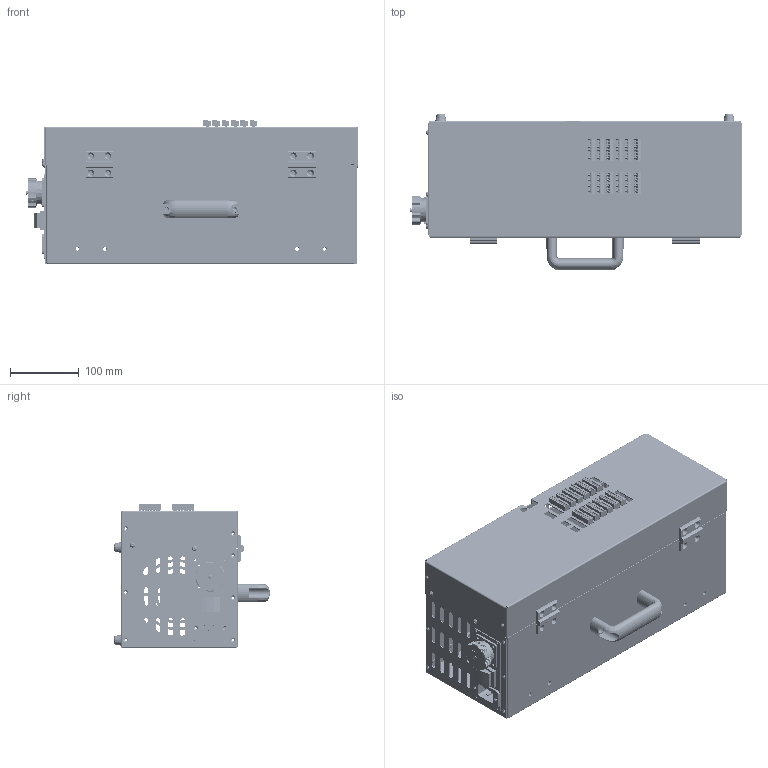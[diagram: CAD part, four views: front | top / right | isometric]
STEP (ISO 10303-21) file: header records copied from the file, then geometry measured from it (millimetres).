
FILE_DESCRIPTION (( 'STEP AP214' ), '1' );
FILE_NAME ('俋倛杅耀_ERB3C2K0N-D9_1.0_20250902.STEP', '2025-09-02T03:19:03', ( '' ), ( '' ), 'SwSTEP 2.0', 'SolidWorks 2020', '' );
FILE_SCHEMA (( 'AUTOMOTIVE_DESIGN' ));
Length unit declared in the file: millimetre
Products named in the file (18): 俋諉脣諳耀倰Safe Io-C20; CL218-3傲跳蝓蟈; 俋倛杅耀_ERB3C2K0N-D9_1.0_20250902; CL218-3傲跳-种; XAG61-L100; GB_T70.1-2008 M6x16; OEM眊极-C-藷-D9; OEM眊极-C-眊极; CL218-3傲跳; NA60401726_OEM眊极-D9-CS620; NA20600043_船型开关 KCD4 四脚两档带灯 30A; 囀鞠褒す埴芛蹟隊 GB _T 70.2 - 2015   M4X8; NA20200208_220V萇埭脣釱(CS620&625); NA20200197_瑤脣釱-CS620蚳蚚_WY32-Z; GBT70．1-2000内六角圆柱头螺钉M3×8; NHY11-16; NA60200442_ERB1C4K0N蟀諉ん假蚾鍼踢
Assembly tree (48 placements, depth 4):
  俋倛杅耀_ERB3C2K0N-D9_1.0_20250902
    NA60401726_OEM眊极-D9-CS620
      OEM眊极-C-眊极
      OEM眊极-C-藷-D9
      XAG61-L100
      NHY11-16  x4
      GBT70．1-2000内六角圆柱头螺钉M3×8
      GB_T70.1-2008 M6x16
      囀鞠褒す埴芛蹟隊 GB _T 70.2 - 2015   M4X8  x2
      CL218-3傲跳蝓蟈
        CL218-3傲跳  x2
        CL218-3傲跳-种
      CL218-3傲跳蝓蟈
        CL218-3傲跳  x2
        CL218-3傲跳-种
    NA20200208_220V萇埭脣釱(CS620&625)
    NA60200442_ERB1C4K0N蟀諉ん假蚾鍼踢
    NA20200197_瑤脣釱-CS620蚳蚚_WY32-Z
    NA20600043_船型开关 KCD4 四脚两档带灯 30A
    俋諉脣諳耀倰Safe Io-C20  x24
Bounding box: 483.67 x 226.94 x 209.95 mm (x, y, z)
Volume: 773345.4 mm3; surface area: 909616.6 mm2
Topology: 45 solids, 45 shells, 9614 faces, 25841 edges, 16956 vertices
Faces by surface type: plane 5296, cylinder 3268, bspline 581, cone 463, torus 6
Entity records: 97328 total; most frequent: CARTESIAN_POINT 24682, ORIENTED_EDGE 14264, DIRECTION 13551, EDGE_CURVE 7132, AXIS2_PLACEMENT_3D 4886, VERTEX_POINT 4666, LINE 3779, VECTOR 3779
